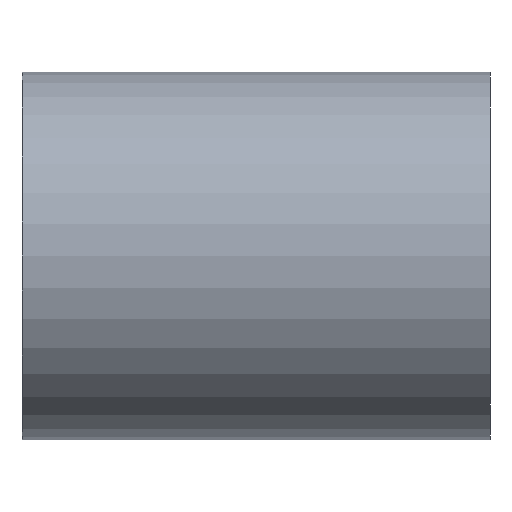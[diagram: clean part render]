
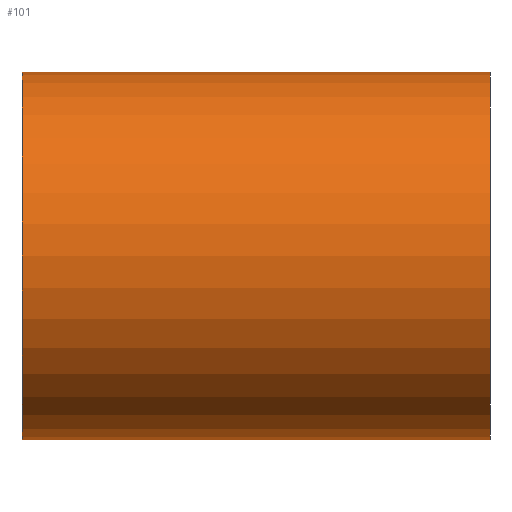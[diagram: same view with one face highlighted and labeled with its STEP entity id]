
A CAD part, front view. The second image highlights one B-rep face of the part: STEP entity #101.
In plain terms, the highlighted cylindrical face has radius 16.5 mm (diameter 33 mm), a full revolution.
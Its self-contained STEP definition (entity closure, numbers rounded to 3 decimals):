
#25=FACE_BOUND('',#48,.T.);
#33=FACE_OUTER_BOUND('',#47,.T.);
#47=EDGE_LOOP('',(#87));
#48=EDGE_LOOP('',(#88));
#57=CIRCLE('',#117,16.5);
#58=CIRCLE('',#119,16.5);
#65=VERTEX_POINT('',#174);
#66=VERTEX_POINT('',#177);
#73=EDGE_CURVE('',#65,#65,#57,.T.);
#74=EDGE_CURVE('',#66,#66,#58,.T.);
#87=ORIENTED_EDGE('',*,*,#73,.F.);
#88=ORIENTED_EDGE('',*,*,#74,.F.);
#94=CYLINDRICAL_SURFACE('',#118,16.5);
#101=ADVANCED_FACE('',(#33,#25),#94,.T.);
#117=AXIS2_PLACEMENT_3D('',#175,#147,#148);
#118=AXIS2_PLACEMENT_3D('',#176,#149,#150);
#119=AXIS2_PLACEMENT_3D('',#178,#151,#152);
#147=DIRECTION('center_axis',(-1.,0.,0.));
#148=DIRECTION('ref_axis',(0.,-1.,0.));
#149=DIRECTION('center_axis',(1.,0.,0.));
#150=DIRECTION('ref_axis',(0.,-1.,0.));
#151=DIRECTION('center_axis',(1.,0.,0.));
#152=DIRECTION('ref_axis',(0.,-1.,0.));
#174=CARTESIAN_POINT('',(-21.,16.5,0.));
#175=CARTESIAN_POINT('Origin',(-21.,0.,0.));
#176=CARTESIAN_POINT('Origin',(0.,0.,0.));
#177=CARTESIAN_POINT('',(21.,16.5,0.));
#178=CARTESIAN_POINT('Origin',(21.,0.,0.));
